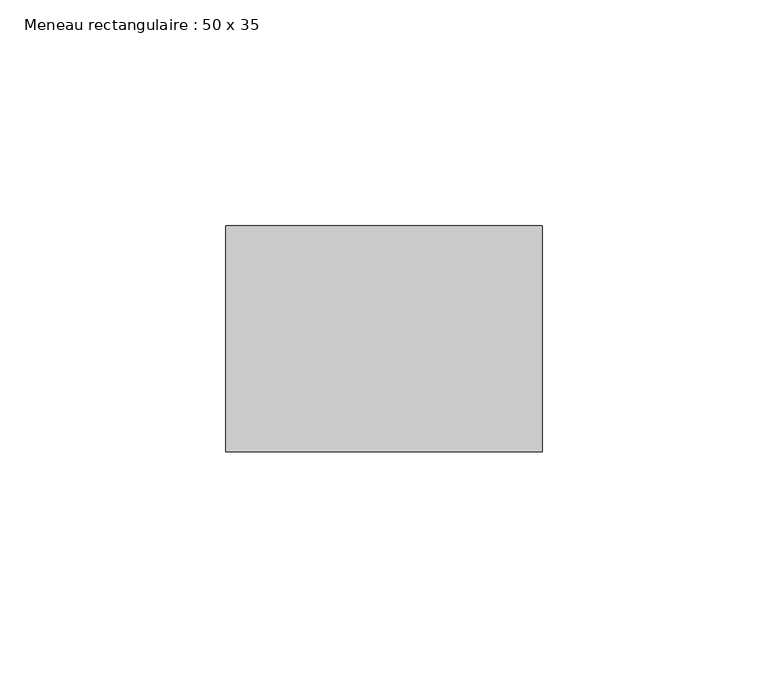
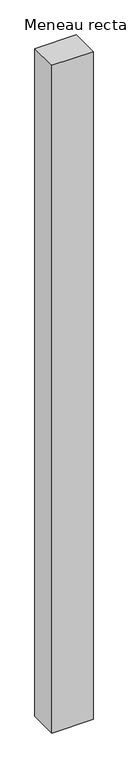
"""IFC4 building model written with IfcOpenShell, lengths in millimetres: member geometry, Meneau rectangulaire : 50 x 35."""

from ifc_helpers import new_model, si_unit, frame, origin, place, context, project, spatial, polyline, outline, extrude, source, transform, mapped, element, save


def meneau_rectangulaire_50_x_35_b9696d1a(model_context):
    return source(origin(), model_context, "Body", "SweptSolid", [
        extrude(outline(polyline([(0.0, 0.0), (0.0, -50.0), (-70.0, -50.0), (-70.0, 0.0), (0.0, 0.0)])), frame((0.0, 0.0, -1200.0), z_axis=(0.0, 0.0, 1.0), x_axis=(1.0, 0.0, 0.0)), (0.0, 0.0, 1.0), 1200.0),
    ])


if __name__ == "__main__":
    model = new_model("IFC4")
    model_context = context("Model", 3, world=origin())
    ifc_project = project(units=[si_unit("LENGTHUNIT", "METRE", prefix="MILLI")], contexts=[model_context])
    site = spatial("IfcSite", under=ifc_project)
    building = spatial("IfcBuilding", under=site)
    placement = place(None, origin())
    meneau_rectangulaire_50_x_35_shape = meneau_rectangulaire_50_x_35_b9696d1a(model_context)
    element("IfcMember", 1, ObjectType="Meneau rectangulaire : 50 x 35", at=placement, inside=building, context=model_context, shape_type="MappedRepresentation", body=[
        mapped(meneau_rectangulaire_50_x_35_shape, transform((0.0, 0.0, 0.0), x_axis=(1.0, 0.0, 0.0), y_axis=(0.0, 1.0, 0.0), z_axis=(0.0, 0.0, 1.0))),
    ])
    save(model, "model.ifc")
